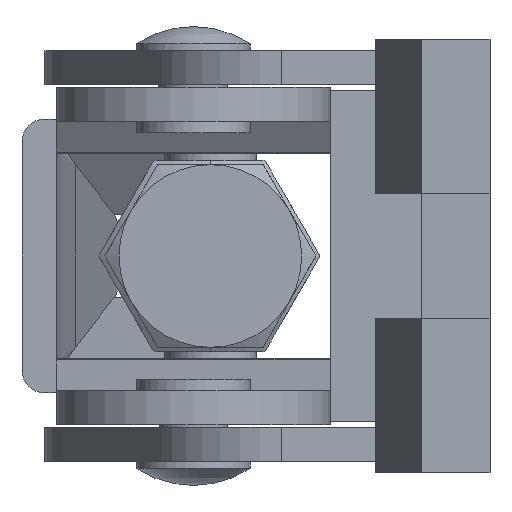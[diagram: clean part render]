
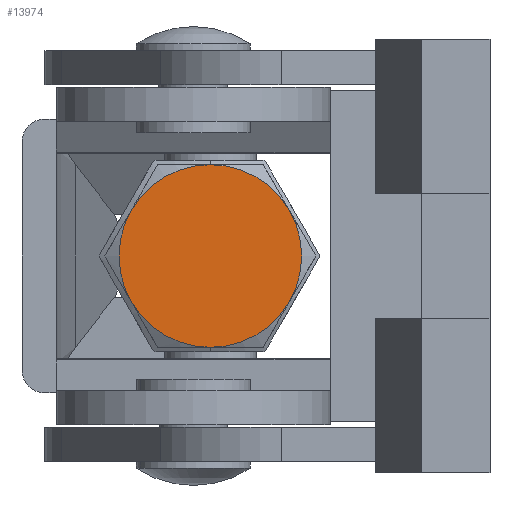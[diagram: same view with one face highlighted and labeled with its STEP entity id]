
A CAD part, left-side view. The second image highlights one B-rep face of the part: STEP entity #13974.
In plain terms, the highlighted planar face has unit normal (-1, 0, 0).
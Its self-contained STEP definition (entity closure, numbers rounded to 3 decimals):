
#118 = CARTESIAN_POINT ( 'NONE',  ( 0., 6.928, -4. ) ) ;
#793 = EDGE_CURVE ( 'NONE', #11505, #15977, #5646, .T. ) ;
#931 = DIRECTION ( 'NONE',  ( 0., 0., -1. ) ) ;
#1135 = DIRECTION ( 'NONE',  ( -1., 0., 0. ) ) ;
#1809 = VERTEX_POINT ( 'NONE', #118 ) ;
#2068 = ORIENTED_EDGE ( 'NONE', *, *, #9548, .F. ) ;
#2787 = CARTESIAN_POINT ( 'NONE',  ( 0., 0., 0. ) ) ;
#3308 = CIRCLE ( 'NONE', #6613, 8. ) ;
#3364 = DIRECTION ( 'NONE',  ( 1., 0., 0. ) ) ;
#3831 = ORIENTED_EDGE ( 'NONE', *, *, #15897, .T. ) ;
#3884 = CARTESIAN_POINT ( 'NONE',  ( 0., 0., 8. ) ) ;
#4122 = DIRECTION ( 'NONE',  ( 0., 0., -1. ) ) ;
#4274 = AXIS2_PLACEMENT_3D ( 'NONE', #15645, #7679, #16998 ) ;
#4392 = DIRECTION ( 'NONE',  ( 1., 0., 0. ) ) ;
#4537 = CARTESIAN_POINT ( 'NONE',  ( 0., 0., 0. ) ) ;
#4661 = CARTESIAN_POINT ( 'NONE',  ( 0., 9.238, 0. ) ) ;
#5646 = CIRCLE ( 'NONE', #14230, 8. ) ;
#5844 = DIRECTION ( 'NONE',  ( 0., 0., -1. ) ) ;
#6186 = CIRCLE ( 'NONE', #8354, 8. ) ;
#6520 = EDGE_CURVE ( 'NONE', #15977, #1809, #14891, .T. ) ;
#6538 = ORIENTED_EDGE ( 'NONE', *, *, #7082, .F. ) ;
#6613 = AXIS2_PLACEMENT_3D ( 'NONE', #2787, #12052, #4122 ) ;
#6927 = CARTESIAN_POINT ( 'NONE',  ( 0., -6.928, 4. ) ) ;
#7082 = EDGE_CURVE ( 'NONE', #15371, #14344, #14444, .T. ) ;
#7679 = DIRECTION ( 'NONE',  ( 1., 0., 0. ) ) ;
#7880 = CARTESIAN_POINT ( 'NONE',  ( 0., 0., -8. ) ) ;
#8354 = AXIS2_PLACEMENT_3D ( 'NONE', #9040, #1135, #10387 ) ;
#8385 = AXIS2_PLACEMENT_3D ( 'NONE', #4661, #3364, #12641 ) ;
#8763 = ORIENTED_EDGE ( 'NONE', *, *, #12338, .F. ) ;
#8830 = DIRECTION ( 'NONE',  ( 1., 0., 0. ) ) ;
#9040 = CARTESIAN_POINT ( 'NONE',  ( 0., 0., 0. ) ) ;
#9186 = ORIENTED_EDGE ( 'NONE', *, *, #793, .F. ) ;
#9335 = CARTESIAN_POINT ( 'NONE',  ( 0., 6.928, 4. ) ) ;
#9548 = EDGE_CURVE ( 'NONE', #14344, #11505, #3308, .T. ) ;
#9582 = CARTESIAN_POINT ( 'NONE',  ( 0., -6.928, -4. ) ) ;
#9810 = AXIS2_PLACEMENT_3D ( 'NONE', #16823, #8830, #931 ) ;
#10387 = DIRECTION ( 'NONE',  ( 0., 0., 1. ) ) ;
#10710 = VERTEX_POINT ( 'NONE', #9335 ) ;
#11505 = VERTEX_POINT ( 'NONE', #9582 ) ;
#11555 = FACE_OUTER_BOUND ( 'NONE', #11887, .T. ) ;
#11887 = EDGE_LOOP ( 'NONE', ( #13910, #9186, #2068, #6538, #3831, #8763 ) ) ;
#12011 = CIRCLE ( 'NONE', #9810, 8. ) ;
#12052 = DIRECTION ( 'NONE',  ( 1., 0., 0. ) ) ;
#12313 = CARTESIAN_POINT ( 'NONE',  ( 0., 0., 0. ) ) ;
#12338 = EDGE_CURVE ( 'NONE', #1809, #10710, #12011, .T. ) ;
#12641 = DIRECTION ( 'NONE',  ( 0., 0., -1. ) ) ;
#13526 = AXIS2_PLACEMENT_3D ( 'NONE', #12313, #4392, #13645 ) ;
#13645 = DIRECTION ( 'NONE',  ( 0., 0., -1. ) ) ;
#13793 = DIRECTION ( 'NONE',  ( 1., 0., 0. ) ) ;
#13910 = ORIENTED_EDGE ( 'NONE', *, *, #6520, .F. ) ;
#13974 = ADVANCED_FACE ( 'NONE', ( #11555 ), #15216, .F. ) ;
#14230 = AXIS2_PLACEMENT_3D ( 'NONE', #4537, #13793, #5844 ) ;
#14344 = VERTEX_POINT ( 'NONE', #6927 ) ;
#14444 = CIRCLE ( 'NONE', #4274, 8. ) ;
#14891 = CIRCLE ( 'NONE', #13526, 8. ) ;
#15216 = PLANE ( 'NONE',  #8385 ) ;
#15371 = VERTEX_POINT ( 'NONE', #3884 ) ;
#15645 = CARTESIAN_POINT ( 'NONE',  ( 0., 0., 0. ) ) ;
#15897 = EDGE_CURVE ( 'NONE', #15371, #10710, #6186, .T. ) ;
#15977 = VERTEX_POINT ( 'NONE', #7880 ) ;
#16823 = CARTESIAN_POINT ( 'NONE',  ( 0., 0., 0. ) ) ;
#16998 = DIRECTION ( 'NONE',  ( 0., 0., -1. ) ) ;
